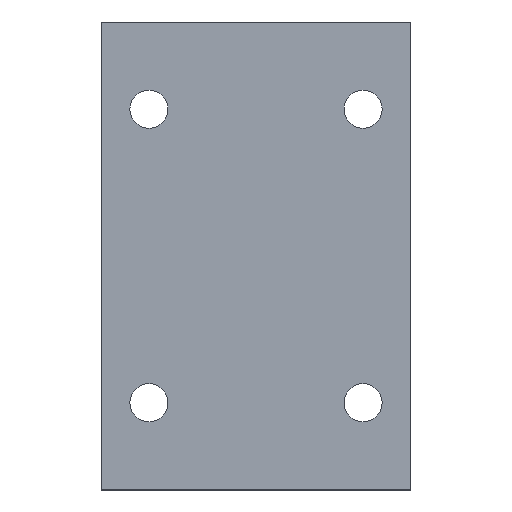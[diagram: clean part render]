
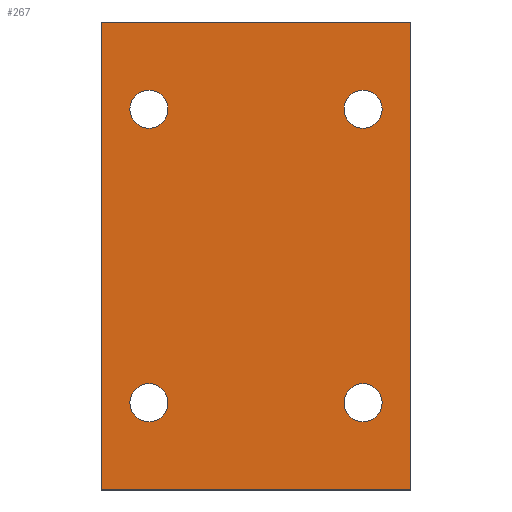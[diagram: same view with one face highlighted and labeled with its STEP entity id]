
A CAD part, top view. The second image highlights one B-rep face of the part: STEP entity #267.
In plain terms, the highlighted planar face has unit normal (0, 0, 1).
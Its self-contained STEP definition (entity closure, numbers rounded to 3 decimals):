
#32=CIRCLE('',#303,2.4);
#33=CIRCLE('',#304,2.4);
#34=CIRCLE('',#305,2.4);
#35=CIRCLE('',#306,2.4);
#68=ORIENTED_EDGE('',*,*,#116,.F.);
#69=ORIENTED_EDGE('',*,*,#117,.F.);
#70=ORIENTED_EDGE('',*,*,#118,.F.);
#71=ORIENTED_EDGE('',*,*,#119,.F.);
#72=ORIENTED_EDGE('',*,*,#100,.T.);
#73=ORIENTED_EDGE('',*,*,#104,.T.);
#74=ORIENTED_EDGE('',*,*,#107,.T.);
#75=ORIENTED_EDGE('',*,*,#110,.T.);
#100=EDGE_CURVE('',#128,#129,#152,.T.);
#104=EDGE_CURVE('',#129,#132,#156,.T.);
#107=EDGE_CURVE('',#132,#134,#159,.T.);
#110=EDGE_CURVE('',#134,#128,#162,.T.);
#116=EDGE_CURVE('',#140,#140,#32,.T.);
#117=EDGE_CURVE('',#141,#141,#33,.T.);
#118=EDGE_CURVE('',#142,#142,#34,.T.);
#119=EDGE_CURVE('',#143,#143,#35,.T.);
#128=VERTEX_POINT('',#412);
#129=VERTEX_POINT('',#413);
#132=VERTEX_POINT('',#421);
#134=VERTEX_POINT('',#427);
#140=VERTEX_POINT('',#445);
#141=VERTEX_POINT('',#447);
#142=VERTEX_POINT('',#449);
#143=VERTEX_POINT('',#451);
#152=LINE('',#411,#164);
#156=LINE('',#420,#168);
#159=LINE('',#426,#171);
#162=LINE('',#432,#174);
#164=VECTOR('',#331,1000.);
#168=VECTOR('',#337,1000.);
#171=VECTOR('',#342,1000.);
#174=VECTOR('',#347,1000.);
#185=EDGE_LOOP('',(#68));
#186=EDGE_LOOP('',(#69));
#187=EDGE_LOOP('',(#70));
#188=EDGE_LOOP('',(#71));
#189=EDGE_LOOP('',(#72,#73,#74,#75));
#223=FACE_BOUND('',#185,.T.);
#224=FACE_BOUND('',#186,.T.);
#225=FACE_BOUND('',#187,.T.);
#226=FACE_BOUND('',#188,.T.);
#227=FACE_BOUND('',#189,.T.);
#257=PLANE('',#302);
#267=ADVANCED_FACE('',(#223,#224,#225,#226,#227),#257,.T.);
#302=AXIS2_PLACEMENT_3D('',#443,#359,#360);
#303=AXIS2_PLACEMENT_3D('',#444,#361,#362);
#304=AXIS2_PLACEMENT_3D('',#446,#363,#364);
#305=AXIS2_PLACEMENT_3D('',#448,#365,#366);
#306=AXIS2_PLACEMENT_3D('',#450,#367,#368);
#331=DIRECTION('',(1.,0.,0.));
#337=DIRECTION('',(0.,1.,0.));
#342=DIRECTION('',(-1.,0.,0.));
#347=DIRECTION('',(0.,-1.,0.));
#359=DIRECTION('',(0.,0.,1.));
#360=DIRECTION('',(1.,0.,0.));
#361=DIRECTION('',(0.,0.,1.));
#362=DIRECTION('',(1.,0.,0.));
#363=DIRECTION('',(0.,0.,1.));
#364=DIRECTION('',(1.,0.,0.));
#365=DIRECTION('',(0.,0.,1.));
#366=DIRECTION('',(1.,0.,0.));
#367=DIRECTION('',(0.,0.,1.));
#368=DIRECTION('',(1.,0.,0.));
#411=CARTESIAN_POINT('',(-19.5,-29.5,0.));
#412=CARTESIAN_POINT('',(-19.5,-29.5,0.));
#413=CARTESIAN_POINT('',(19.5,-29.5,0.));
#420=CARTESIAN_POINT('',(19.5,-29.5,0.));
#421=CARTESIAN_POINT('',(19.5,29.5,0.));
#426=CARTESIAN_POINT('',(19.5,29.5,0.));
#427=CARTESIAN_POINT('',(-19.5,29.5,0.));
#432=CARTESIAN_POINT('',(-19.5,29.5,0.));
#443=CARTESIAN_POINT('',(0.,0.,0.));
#444=CARTESIAN_POINT('',(-13.5,18.5,0.));
#445=CARTESIAN_POINT('',(-11.1,18.5,0.));
#446=CARTESIAN_POINT('',(13.5,-18.5,0.));
#447=CARTESIAN_POINT('',(15.9,-18.5,0.));
#448=CARTESIAN_POINT('',(-13.5,-18.5,0.));
#449=CARTESIAN_POINT('',(-11.1,-18.5,0.));
#450=CARTESIAN_POINT('',(13.5,18.5,0.));
#451=CARTESIAN_POINT('',(15.9,18.5,0.));
